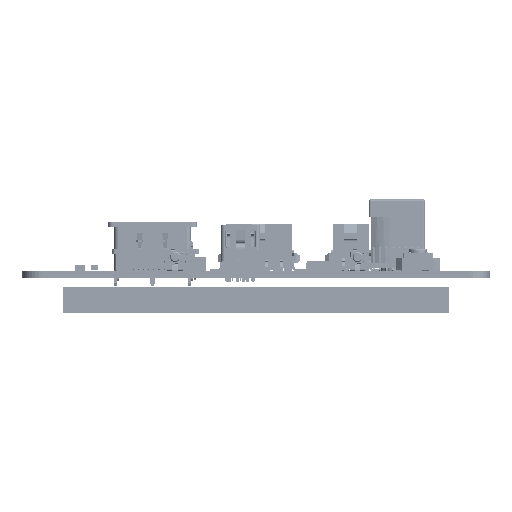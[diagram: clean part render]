
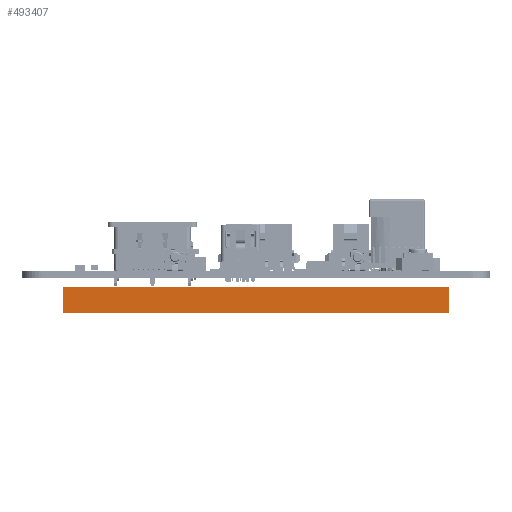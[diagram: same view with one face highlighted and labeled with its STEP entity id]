
A CAD part, left-side view. The second image highlights one B-rep face of the part: STEP entity #493407.
In plain terms, the highlighted planar face has unit normal (-1, 0, 0) as drawn and (1, 0, 0) by its records, which use the part's own axes.
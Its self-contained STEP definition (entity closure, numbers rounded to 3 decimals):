
#20641 = CARTESIAN_POINT ( 'NONE',  ( 60.35, 37.9, 5.1 ) ) ;
#49750 = VERTEX_POINT ( 'NONE', #292972 ) ;
#54838 = VERTEX_POINT ( 'NONE', #312719 ) ;
#88313 = EDGE_CURVE ( 'NONE', #54838, #231881, #146016, .T. ) ;
#89709 = VECTOR ( 'NONE', #583428, 1000. ) ;
#105974 = LINE ( 'NONE', #517381, #143461 ) ;
#112790 = LINE ( 'NONE', #621765, #595277 ) ;
#116701 = PLANE ( 'NONE',  #422168 ) ;
#132398 = ORIENTED_EDGE ( 'NONE', *, *, #518691, .T. ) ;
#139547 = CARTESIAN_POINT ( 'NONE',  ( 60.35, -37.9, 5.1 ) ) ;
#143461 = VECTOR ( 'NONE', #521523, 1000. ) ;
#146016 = LINE ( 'NONE', #139547, #259053 ) ;
#189282 = EDGE_CURVE ( 'NONE', #572214, #49750, #112790, .T. ) ;
#194748 = LINE ( 'NONE', #290714, #89709 ) ;
#213428 = DIRECTION ( 'NONE',  ( -1., 0., 0. ) ) ;
#231881 = VERTEX_POINT ( 'NONE', #426305 ) ;
#254389 = ORIENTED_EDGE ( 'NONE', *, *, #88313, .T. ) ;
#259053 = VECTOR ( 'NONE', #388285, 1000. ) ;
#275109 = FACE_OUTER_BOUND ( 'NONE', #320853, .T. ) ;
#290714 = CARTESIAN_POINT ( 'NONE',  ( 60.35, 37.9, 0. ) ) ;
#292972 = CARTESIAN_POINT ( 'NONE',  ( 60.35, 37.9, 0. ) ) ;
#312719 = CARTESIAN_POINT ( 'NONE',  ( 60.35, -37.9, 5.1 ) ) ;
#320853 = EDGE_LOOP ( 'NONE', ( #132398, #581579, #511721, #254389 ) ) ;
#388285 = DIRECTION ( 'NONE',  ( 0., 0., -1. ) ) ;
#422168 = AXIS2_PLACEMENT_3D ( 'NONE', #454057, #213428, #550768 ) ;
#426305 = CARTESIAN_POINT ( 'NONE',  ( 60.35, -37.9, 0. ) ) ;
#454057 = CARTESIAN_POINT ( 'NONE',  ( 60.35, 37.9, 5.1 ) ) ;
#493407 = ADVANCED_FACE ( 'NONE', ( #275109 ), #116701, .F. ) ;
#511721 = ORIENTED_EDGE ( 'NONE', *, *, #555657, .F. ) ;
#517381 = CARTESIAN_POINT ( 'NONE',  ( 60.35, 37.9, 5.1 ) ) ;
#518691 = EDGE_CURVE ( 'NONE', #231881, #49750, #194748, .T. ) ;
#521523 = DIRECTION ( 'NONE',  ( 0., 1., 0. ) ) ;
#550768 = DIRECTION ( 'NONE',  ( 0., -1., 0. ) ) ;
#555657 = EDGE_CURVE ( 'NONE', #54838, #572214, #105974, .T. ) ;
#572214 = VERTEX_POINT ( 'NONE', #20641 ) ;
#581579 = ORIENTED_EDGE ( 'NONE', *, *, #189282, .F. ) ;
#583428 = DIRECTION ( 'NONE',  ( 0., 1., 0. ) ) ;
#595277 = VECTOR ( 'NONE', #617637, 1000. ) ;
#617637 = DIRECTION ( 'NONE',  ( 0., 0., -1. ) ) ;
#621765 = CARTESIAN_POINT ( 'NONE',  ( 60.35, 37.9, 5.1 ) ) ;
